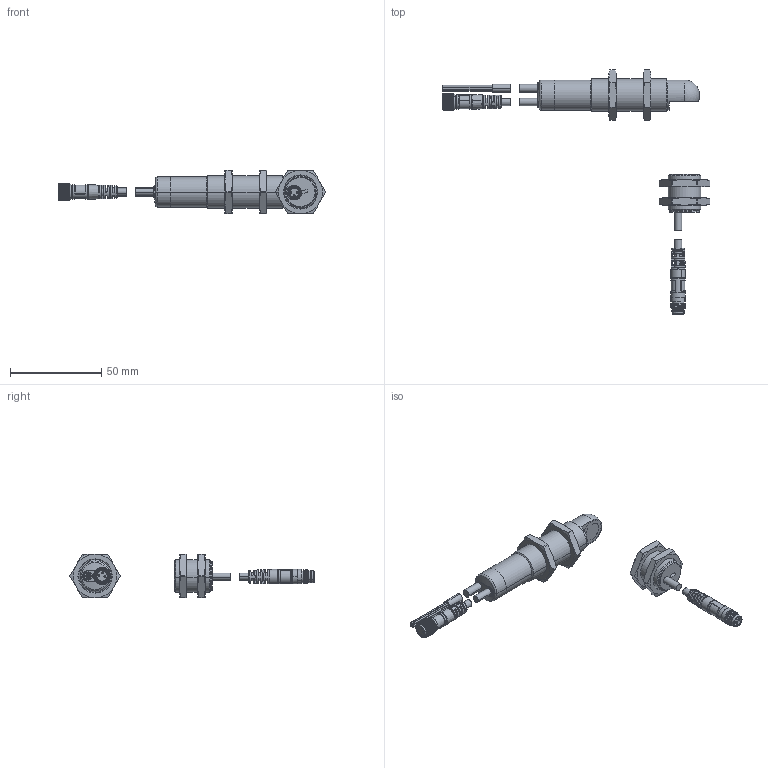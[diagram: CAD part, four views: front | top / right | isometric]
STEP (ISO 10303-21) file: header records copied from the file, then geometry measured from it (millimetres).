
FILE_DESCRIPTION (( 'STEP AP214' ), '1' );
FILE_NAME ('dbk+4_WK.STEP', '2025-11-14T08:59:07', ( '' ), ( '' ), 'SwSTEP 2.0', 'SolidWorks 2024', '' );
FILE_SCHEMA (( 'AUTOMOTIVE_DESIGN' ));
Length unit declared in the file: millimetre
Products named in the file (7): 3pol. Kabelstecker; dbk+4-Sender_M18_KX; M18x1 Mutter; dbk+4_WK; 3pol. Kabelbuchse; Sensorleitung
Assembly tree (9 placements, depth 2):
  dbk+4_WK
    dbk+4_WK
    M18x1 Mutter  x4
    3pol. Kabelbuchse
    Sensorleitung
    3pol. Kabelstecker
    dbk+4-Sender_M18_KX
Bounding box: 146.8 x 134.04 x 24 mm (x, y, z)
Volume: 32076.3 mm3; surface area: 15383.7 mm2
Topology: 9 solids, 21 shells, 3149 faces, 6889 edges, 3794 vertices
Faces by surface type: bspline 1799, cylinder 733, plane 332, cone 204, torus 49, sphere 32
Entity records: 134555 total; most frequent: CARTESIAN_POINT 57314, ORIENTED_EDGE 13236, EDGE_CURVE 6618, B_SPLINE_CURVE_WITH_KNOTS 5321, DIRECTION 4391, VERTEX_POINT 3648, EDGE_LOOP 3096, ADVANCED_FACE 3044
